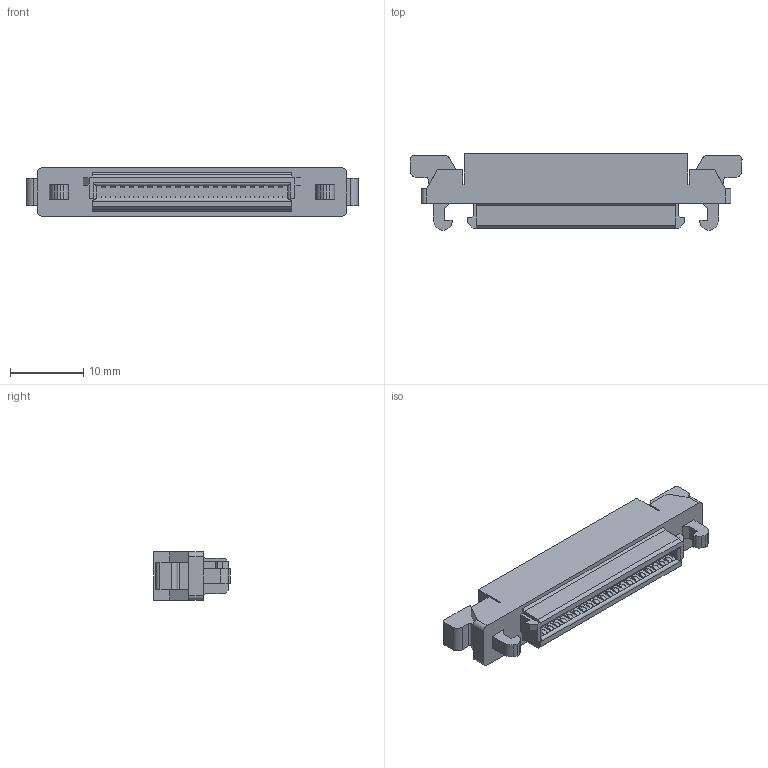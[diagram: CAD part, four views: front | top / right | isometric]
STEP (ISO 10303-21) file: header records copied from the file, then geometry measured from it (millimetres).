
FILE_DESCRIPTION(('Creo Elements/Direct Modeling STEP Export'),'2;1');
FILE_NAME('P39478_8925R-040-179-F.stp','2023-02-27T13:45:18',(''),(''),'Creo Elements/Direct Modeling STEP processor for AP214 (Solid Model)','Creo Elements/Direct Modeling 20.4A 18-Oct-2021 (C) Parametric Technology GmbH','');
FILE_SCHEMA(('AUTOMOTIVE_DESIGN { 1 0 10303 214 1 1 1 1 }'));
Length unit declared in the file: millimetre
Products named in the file (2): 8925R-040-179-F
Assembly tree (1 placements, depth 2):
  8925R-040-179-F
    8925R-040-179-F
Bounding box: 45.34 x 10.5 x 6.6 mm (x, y, z)
Volume: 2128.4 mm3; surface area: 1755.9 mm2
Topology: 1 solids, 1 shells, 328 faces, 952 edges, 630 vertices
Faces by surface type: plane 224, cylinder 104
Entity records: 10560 total; most frequent: ORIENTED_EDGE 1904, CARTESIAN_POINT 1852, DIRECTION 1743, EDGE_CURVE 952, VECTOR 701, LINE 701, VERTEX_POINT 630, AXIS2_PLACEMENT_3D 521
